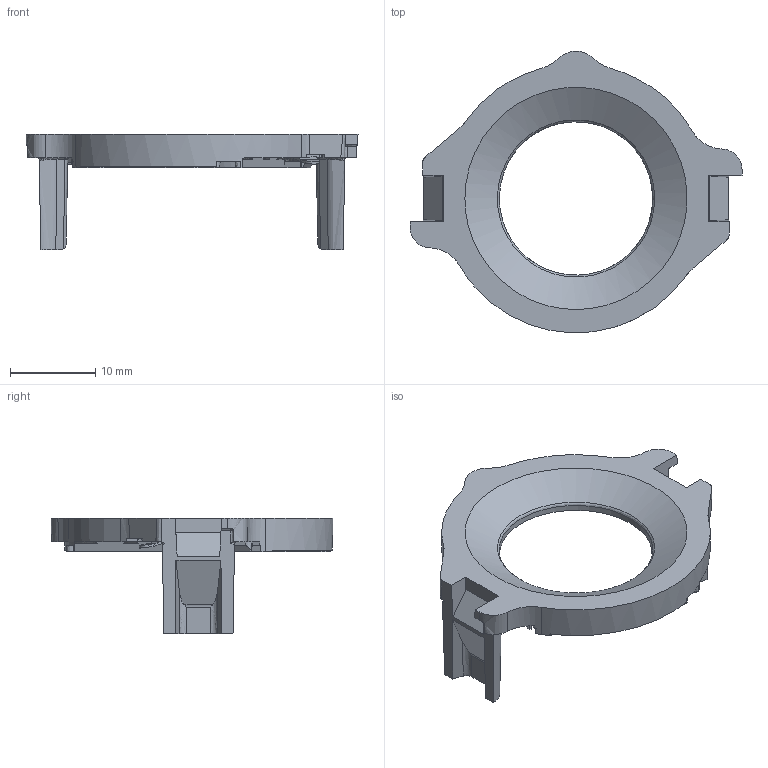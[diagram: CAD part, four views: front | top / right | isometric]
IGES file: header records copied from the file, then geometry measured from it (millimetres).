
Start section: C
Global section: file name: 025-70D-02.igs; native system: By Siemens PLM Incorporated; preprocessor: XPlus GENERIC/IGES 23.0.61; author: Author; organization: Title; date: 20260216.130603; units: millimetre
Bounding box: 39 x 33.09 x 13.6 mm (x, y, z)
Volume: 1709.4 mm3; surface area: 2552.3 mm2
Topology: 1 solids, 1 shells, 504 faces, 1421 edges, 928 vertices
Faces by surface type: bspline 504
